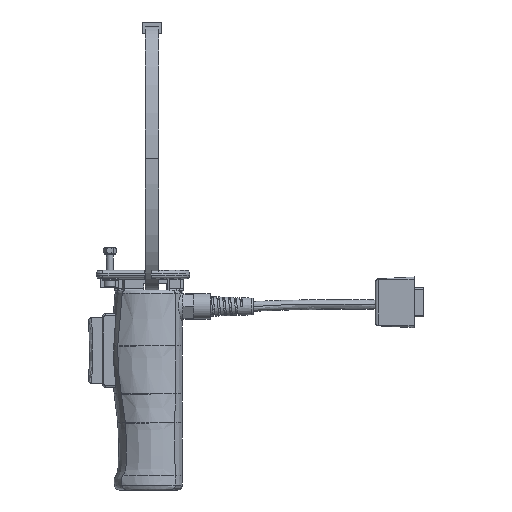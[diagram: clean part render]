
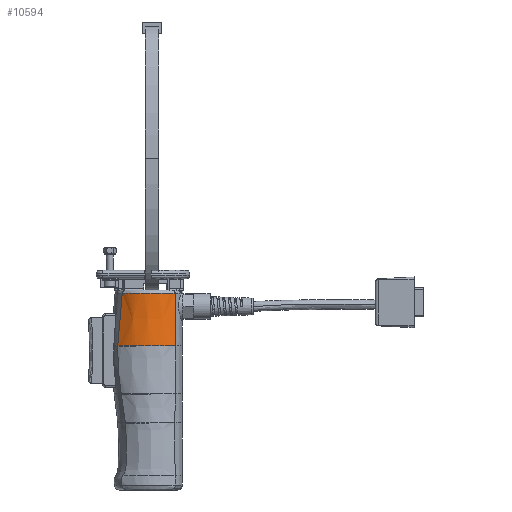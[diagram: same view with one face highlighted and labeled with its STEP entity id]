
A CAD part, left-side view. The second image highlights one B-rep face of the part: STEP entity #10594.
In plain terms, the highlighted free-form (B-spline) face has degree [3, 3] with [5, 7] control points.
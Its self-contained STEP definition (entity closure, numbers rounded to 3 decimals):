
#6047=CARTESIAN_POINT('',(-13.,20.845,-40.99));
#6048=VERTEX_POINT('',#6047);
#7925=CARTESIAN_POINT('',(-13.,18.143,-8.978));
#7926=VERTEX_POINT('',#7925);
#7927=CARTESIAN_POINT('',(-13.,18.143,-8.978));
#7928=CARTESIAN_POINT('',(-13.,18.436,-11.642));
#7929=CARTESIAN_POINT('',(-13.001,18.734,-14.436));
#7930=CARTESIAN_POINT('',(-13.,19.281,-19.783));
#7931=CARTESIAN_POINT('',(-12.998,19.548,-22.521));
#7932=CARTESIAN_POINT('',(-13.001,19.946,-26.995));
#7933=CARTESIAN_POINT('',(-13.004,20.097,-28.816));
#7934=CARTESIAN_POINT('',(-13.006,20.363,-32.295));
#7935=CARTESIAN_POINT('',(-13.006,20.488,-34.072));
#7936=CARTESIAN_POINT('',(-13.003,20.644,-36.664));
#7937=CARTESIAN_POINT('',(-13.002,20.692,-37.529));
#7938=CARTESIAN_POINT('',(-13.001,20.755,-38.828));
#7939=CARTESIAN_POINT('',(-13.001,20.775,-39.26));
#7940=CARTESIAN_POINT('',(-13.001,20.803,-39.905));
#7941=CARTESIAN_POINT('',(-13.,20.812,-40.123));
#7942=CARTESIAN_POINT('',(-13.,20.825,-40.451));
#7943=CARTESIAN_POINT('',(-13.,20.829,-40.563));
#7944=CARTESIAN_POINT('',(-13.,20.834,-40.689));
#7945=CARTESIAN_POINT('',(-13.,20.84,-40.846));
#7946=CARTESIAN_POINT('',(-13.,20.845,-40.99));
#7947=B_SPLINE_CURVE_WITH_KNOTS('',3,(#7927,#7928,#7929,#7930,#7931,#7932,#7933,#7934,#7935,#7936,#7937,#7938,#7939,#7940,#7941,#7942,#7943,#7944,#7945,#7946),.UNSPECIFIED.,.F.,.U.,(4,2,2,2,2,2,2,2,2,4),(-19.184,-14.325,-9.371,-6.049,-2.949,-1.397,-0.62,-0.237,-0.043,0.),.UNSPECIFIED.);
#7948=EDGE_CURVE('',#7926,#6048,#7947,.T.);
#8931=CARTESIAN_POINT('',(-13.006,-14.181,-8.977));
#8932=VERTEX_POINT('',#8931);
#8961=CARTESIAN_POINT('',(-13.005,-14.516,-40.819));
#8962=VERTEX_POINT('',#8961);
#8963=CARTESIAN_POINT('',(-13.005,-14.516,-40.819));
#8964=CARTESIAN_POINT('',(-13.006,-14.509,-39.43));
#8965=CARTESIAN_POINT('',(-13.006,-14.494,-36.558));
#8966=CARTESIAN_POINT('',(-13.008,-14.456,-31.884));
#8967=CARTESIAN_POINT('',(-13.007,-14.408,-26.834));
#8968=CARTESIAN_POINT('',(-13.007,-14.346,-21.368));
#8969=CARTESIAN_POINT('',(-13.012,-14.267,-15.459));
#8970=CARTESIAN_POINT('',(-13.006,-14.214,-11.191));
#8971=CARTESIAN_POINT('',(-13.006,-14.181,-8.977));
#8972=B_SPLINE_CURVE_WITH_KNOTS('',3,(#8963,#8964,#8965,#8966,#8967,#8968,#8969,#8970,#8971),.UNSPECIFIED.,.F.,.U.,(4,1,1,1,1,1,4),(0.0,0.167,0.333,0.5,0.667,0.833,1.0),.UNSPECIFIED.);
#8973=EDGE_CURVE('',#8962,#8932,#8972,.T.);
#10518=CARTESIAN_POINT('',(-13.005,-14.516,-40.819));
#10519=CARTESIAN_POINT('',(-14.94,-11.936,-40.833));
#10520=CARTESIAN_POINT('',(-16.449,-9.1,-40.847));
#10521=CARTESIAN_POINT('',(-17.463,-6.125,-40.862));
#10522=CARTESIAN_POINT('',(-18.478,-3.147,-40.876));
#10523=CARTESIAN_POINT('',(-18.998,-0.03,-40.89));
#10524=CARTESIAN_POINT('',(-18.998,3.093,-40.905));
#10525=CARTESIAN_POINT('',(-18.998,6.215,-40.919));
#10526=CARTESIAN_POINT('',(-18.478,9.344,-40.933));
#10527=CARTESIAN_POINT('',(-17.463,12.344,-40.947));
#10528=CARTESIAN_POINT('',(-16.448,15.345,-40.962));
#10529=CARTESIAN_POINT('',(-14.937,18.217,-40.976));
#10530=CARTESIAN_POINT('',(-13.,20.845,-40.99));
#10531=B_SPLINE_CURVE_WITH_KNOTS('',3,(#10518,#10519,#10520,#10521,#10522,#10523,#10524,#10525,#10526,#10527,#10528,#10529,#10530),.UNSPECIFIED.,.F.,.U.,(4,3,3,3,4),(0.0,0.25,0.5,0.75,1.0),.UNSPECIFIED.);
#10532=EDGE_CURVE('',#8962,#6048,#10531,.T.);
#10537=CARTESIAN_POINT('',(-12.774,-14.443,-8.665));
#10538=CARTESIAN_POINT('',(-12.773,-14.531,-14.076));
#10539=CARTESIAN_POINT('',(-12.772,-14.69,-24.896));
#10540=CARTESIAN_POINT('',(-12.771,-14.801,-35.716));
#10541=CARTESIAN_POINT('',(-12.771,-14.826,-41.126));
#10542=CARTESIAN_POINT('',(-14.796,-12.164,-8.665));
#10543=CARTESIAN_POINT('',(-14.8,-12.174,-14.077));
#10544=CARTESIAN_POINT('',(-14.807,-12.183,-24.901));
#10545=CARTESIAN_POINT('',(-14.815,-12.174,-35.727));
#10546=CARTESIAN_POINT('',(-14.819,-12.162,-41.141));
#10547=CARTESIAN_POINT('',(-17.925,-6.949,-8.665));
#10548=CARTESIAN_POINT('',(-17.927,-6.837,-14.08));
#10549=CARTESIAN_POINT('',(-17.932,-6.616,-24.91));
#10550=CARTESIAN_POINT('',(-17.936,-6.437,-35.749));
#10551=CARTESIAN_POINT('',(-17.938,-6.383,-41.171));
#10552=CARTESIAN_POINT('',(-19.527,1.962,-8.665));
#10553=CARTESIAN_POINT('',(-19.526,2.209,-14.084));
#10554=CARTESIAN_POINT('',(-19.522,2.68,-24.925));
#10555=CARTESIAN_POINT('',(-19.519,3.022,-35.782));
#10556=CARTESIAN_POINT('',(-19.517,3.091,-41.215));
#10557=CARTESIAN_POINT('',(-17.924,10.876,-8.665));
#10558=CARTESIAN_POINT('',(-17.927,11.265,-14.088));
#10559=CARTESIAN_POINT('',(-17.931,11.997,-24.939));
#10560=CARTESIAN_POINT('',(-17.936,12.513,-35.814));
#10561=CARTESIAN_POINT('',(-17.938,12.603,-41.259));
#10562=CARTESIAN_POINT('',(-14.793,16.093,-8.665));
#10563=CARTESIAN_POINT('',(-14.796,16.615,-14.091));
#10564=CARTESIAN_POINT('',(-14.804,17.602,-24.948));
#10565=CARTESIAN_POINT('',(-14.812,18.312,-35.836));
#10566=CARTESIAN_POINT('',(-14.816,18.456,-41.289));
#10567=CARTESIAN_POINT('',(-12.768,18.373,-8.665));
#10568=CARTESIAN_POINT('',(-12.767,18.982,-14.093));
#10569=CARTESIAN_POINT('',(-12.766,20.135,-24.953));
#10570=CARTESIAN_POINT('',(-12.765,20.981,-35.847));
#10571=CARTESIAN_POINT('',(-12.765,21.171,-41.304));
#10572=B_SPLINE_SURFACE_WITH_KNOTS('',3,3,((#10537,#10542,#10547,#10552,#10557,#10562,#10567),(#10538,#10543,#10548,#10553,#10558,#10563,#10568),(#10539,#10544,#10549,#10554,#10559,#10564,#10569),(#10540,#10545,#10550,#10555,#10560,#10565,#10570),(#10541,#10546,#10551,#10556,#10561,#10566,#10571)),.UNSPECIFIED.,.F.,.F.,.F.,(4,1,4),(4,1,1,1,4),(-0.001,0.137,0.275),(-0.01,0.25,0.5,0.75,1.01),.UNSPECIFIED.);
#10573=ORIENTED_EDGE('',*,*,#7948,.T.);
#10574=ORIENTED_EDGE('',*,*,#10532,.F.);
#10575=ORIENTED_EDGE('',*,*,#8973,.T.);
#10576=CARTESIAN_POINT('',(-13.007,-14.181,-8.977));
#10577=CARTESIAN_POINT('',(-14.92,-11.956,-8.977));
#10578=CARTESIAN_POINT('',(-16.431,-9.393,-8.977));
#10579=CARTESIAN_POINT('',(-17.452,-6.645,-8.977));
#10580=CARTESIAN_POINT('',(-18.472,-3.895,-8.978));
#10581=CARTESIAN_POINT('',(-19.,-0.959,-8.978));
#10582=CARTESIAN_POINT('',(-19.,1.976,-8.978));
#10583=CARTESIAN_POINT('',(-19.,4.912,-8.978));
#10584=CARTESIAN_POINT('',(-18.473,7.846,-8.978));
#10585=CARTESIAN_POINT('',(-17.452,10.598,-8.978));
#10586=CARTESIAN_POINT('',(-16.43,13.349,-8.978));
#10587=CARTESIAN_POINT('',(-14.915,15.918,-8.978));
#10588=CARTESIAN_POINT('',(-13.,18.143,-8.978));
#10589=B_SPLINE_CURVE_WITH_KNOTS('',3,(#10576,#10577,#10578,#10579,#10580,#10581,#10582,#10583,#10584,#10585,#10586,#10587,#10588),.UNSPECIFIED.,.F.,.U.,(4,3,3,3,4),(0.,0.25,0.5,0.75,1.0),.UNSPECIFIED.);
#10590=EDGE_CURVE('',#8932,#7926,#10589,.T.);
#10591=ORIENTED_EDGE('',*,*,#10590,.T.);
#10592=EDGE_LOOP('',(#10573,#10574,#10575,#10591));
#10593=FACE_OUTER_BOUND('',#10592,.T.);
#10594=ADVANCED_FACE('',(#10593),#10572,.F.);
